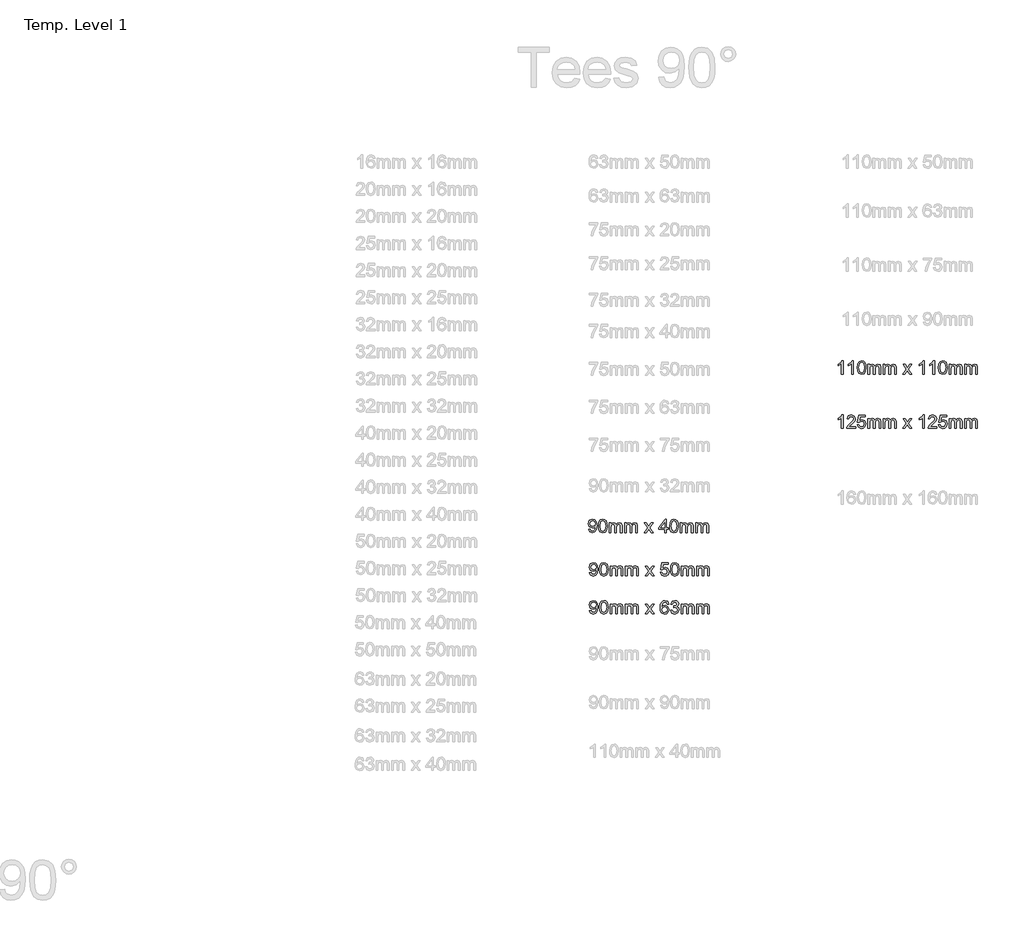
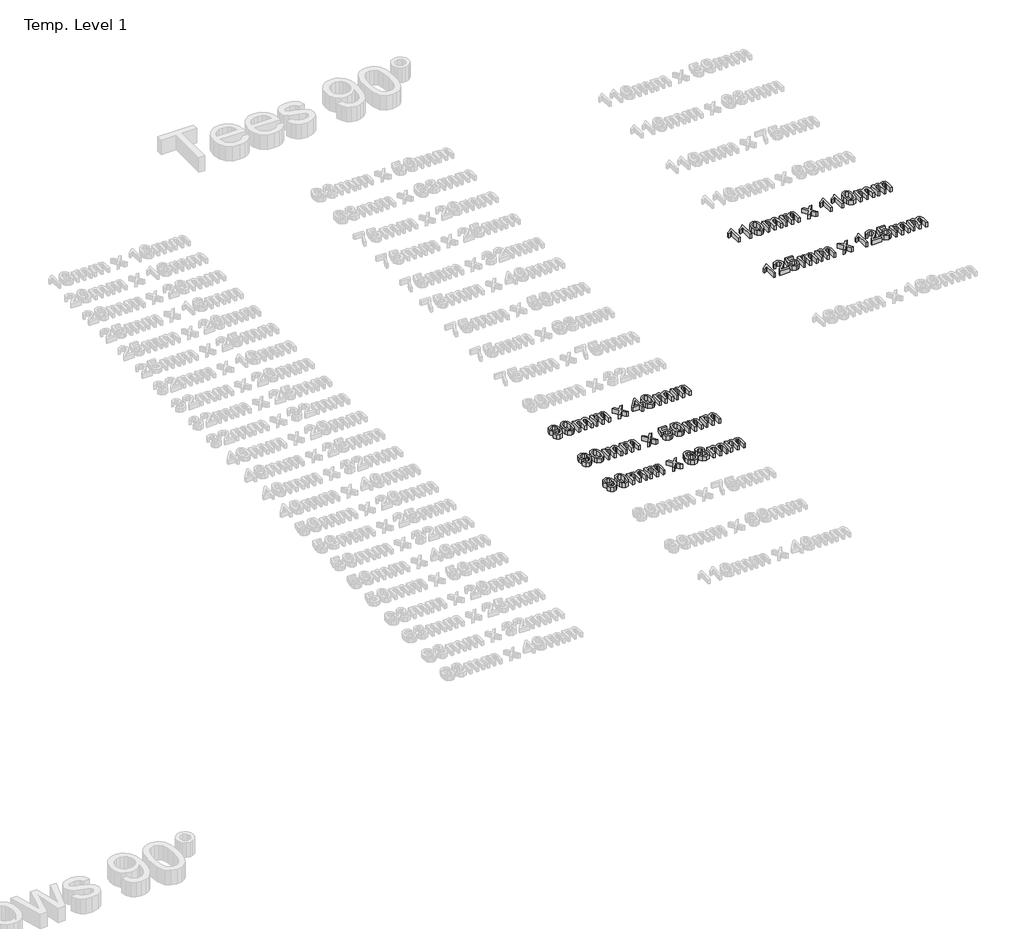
# One storey, part 29 of 62: 5 proxies.
"""IFC4 building model written with IfcOpenShell, lengths in millimetres."""

from ifc_helpers import new_model, si_unit, origin, origin_with_axes, place, context, project, spatial, polyline, outline, extrude, element, save

model = new_model("IFC4")

# Units and contexts
model_context = context("Model", 3, world=origin())
ifc_project = project(units=[si_unit("LENGTHUNIT", "METRE", prefix="MILLI")], contexts=[model_context])

# Site, building, storey
site = spatial("IfcSite", under=ifc_project)
building = spatial("IfcBuilding", under=site)
storey = spatial("IfcBuildingStorey", under=building, Name="Temp. Level 1", Elevation=0.0)

# Proxies
placement = place(None, origin())
element("IfcBuildingElementProxy", 1, Name="50mm Arial", ObjectType="50mm Arial", at=placement, inside=storey, context=model_context, shape_type="SweptSolid", body=[
    extrude(outline(polyline([(27272.9979155, -8702.1878888), (27279.1517617, -8701.4186581), (27281.9161847, -8707.2900523), (27287.1565694, -8709.1109658), (27292.1385405, -8707.9390908), (27295.5159444, -8704.8080811), (27297.5291655, -8699.4595235), (27298.4185886, -8692.3201004), (27293.4606559, -8695.7816388), (27286.7118578, -8697.5725042), (27276.4294059, -8693.1975042), (27272.2286847, -8681.6710619), (27276.6337328, -8669.7720235), (27287.6733963, -8665.2648119), (27296.4414251, -8667.8369273), (27302.475079, -8675.1686581), (27304.5363771, -8688.9426965), (27302.4810886, -8703.88861), (27296.3693097, -8712.3561581), (27286.8681078, -8715.2648119), (27277.4089732, -8711.8333215), (27272.9979155, -8702.1878888)]), holes=[polyline([(27298.3825309, -8681.5268311), (27295.7262809, -8674.1470235), (27288.6709924, -8671.4186581), (27281.2671463, -8674.35736), (27278.3825309, -8681.9715427), (27281.1108963, -8688.7924561), (27288.5027232, -8691.4186581), (27295.600079, -8688.7924561), (27298.3825309, -8681.5268311)])]), origin_with_axes(), (0.0, 0.0, 1.0), 15.0),
    extrude(outline(polyline([(27309.9209924, -8690.2768311), (27311.7298867, -8676.1121677), (27317.1024828, -8667.9451004), (27326.0748386, -8665.2648119), (27333.2623386, -8666.8513504), (27338.2262809, -8671.4246677), (27341.1108963, -8678.7083215), (27342.2286847, -8690.2768311), (27340.4378194, -8704.3813985), (27335.0832521, -8712.5664946), (27326.0748386, -8715.2648119), (27314.8248386, -8710.5773119), (27311.146954, -8702.2509898), (27309.9209924, -8690.2768311)]), holes=[polyline([(27316.0748386, -8690.2648119), (27318.959454, -8705.5472638), (27326.0748386, -8709.1109658), (27333.1902232, -8705.5352446), (27336.0748386, -8690.2648119), (27333.2863771, -8675.1566388), (27326.0027232, -8671.4186581), (27319.0556078, -8674.7119273), (27316.0748386, -8690.2648119)])]), origin_with_axes(), (0.0, 0.0, 1.0), 15.0),
    extrude(outline(polyline([(27349.1517617, -8714.4955811), (27349.1517617, -8678.341735), (27355.3056078, -8678.341735), (27355.3056078, -8684.2912542), (27359.5363771, -8679.4174561), (27365.5580117, -8677.5725042), (27371.7238771, -8679.4535138), (27375.1133001, -8684.7239465), (27379.9149828, -8679.3603648), (27385.9786847, -8677.5725042), (27394.0255597, -8680.5472638), (27396.8440694, -8689.7119273), (27396.8440694, -8714.4955811), (27390.6902232, -8714.4955811), (27390.6902232, -8692.3561581), (27390.1193097, -8687.2179369), (27388.0520021, -8684.6878888), (27384.5363771, -8683.7263504), (27378.4846944, -8686.1902927), (27376.0748386, -8694.0869273), (27376.0748386, -8714.4955811), (27369.9209924, -8714.4955811), (27369.9209924, -8691.6710619), (27368.4967136, -8685.7095235), (27363.8272424, -8683.7263504), (27359.271954, -8685.0484658), (27356.2431078, -8688.9186581), (27355.3056078, -8696.2624081), (27355.3056078, -8714.4955811), (27349.1517617, -8714.4955811)])), origin_with_axes(), (0.0, 0.0, 1.0), 15.0),
    extrude(outline(polyline([(27406.0748386, -8714.4955811), (27406.0748386, -8678.341735), (27412.2286847, -8678.341735), (27412.2286847, -8684.2912542), (27416.459454, -8679.4174561), (27422.4810886, -8677.5725042), (27428.646954, -8679.4535138), (27432.0363771, -8684.7239465), (27436.8380597, -8679.3603648), (27442.9017617, -8677.5725042), (27450.9486367, -8680.5472638), (27453.7671463, -8689.7119273), (27453.7671463, -8714.4955811), (27447.6133001, -8714.4955811), (27447.6133001, -8692.3561581), (27447.0423867, -8687.2179369), (27444.975079, -8684.6878888), (27441.459454, -8683.7263504), (27435.4077713, -8686.1902927), (27432.9979155, -8694.0869273), (27432.9979155, -8714.4955811), (27426.8440694, -8714.4955811), (27426.8440694, -8691.6710619), (27425.4197905, -8685.7095235), (27420.7503194, -8683.7263504), (27416.1950309, -8685.0484658), (27413.1661847, -8688.9186581), (27412.2286847, -8696.2624081), (27412.2286847, -8714.4955811), (27406.0748386, -8714.4955811)])), origin_with_axes(), (0.0, 0.0, 1.0), 15.0),
    extrude(outline(polyline([(27478.3825309, -8714.4955811), (27491.5315694, -8696.3225042), (27479.1517617, -8678.341735), (27486.5556078, -8678.341735), (27492.5291655, -8686.9955811), (27495.3176271, -8691.0821196), (27497.7334924, -8687.7407735), (27504.5363771, -8678.341735), (27511.9402232, -8678.341735), (27498.9354155, -8696.3225042), (27511.459454, -8714.4955811), (27504.0556078, -8714.4955811), (27496.5195501, -8703.5701004), (27495.1373386, -8701.5749081), (27485.7863771, -8714.4955811), (27478.3825309, -8714.4955811)])), origin_with_axes(), (0.0, 0.0, 1.0), 15.0),
    extrude(outline(polyline([(27554.5363771, -8714.4955811), (27554.5363771, -8702.9571196), (27532.2286847, -8702.9571196), (27532.2286847, -8696.8032735), (27556.0748386, -8666.0340427), (27560.6902232, -8666.0340427), (27560.6902232, -8696.8032735), (27566.8440694, -8696.8032735), (27566.8440694, -8702.9571196), (27560.6902232, -8702.9571196), (27560.6902232, -8714.4955811), (27554.5363771, -8714.4955811)]), holes=[polyline([(27554.5363771, -8696.8032735), (27554.5363771, -8677.7888504), (27539.8008001, -8696.8032735), (27554.5363771, -8696.8032735)])]), origin_with_axes(), (0.0, 0.0, 1.0), 15.0),
    extrude(outline(polyline([(27572.2286847, -8690.2768311), (27574.037579, -8676.1121677), (27579.4101751, -8667.9451004), (27588.3825309, -8665.2648119), (27595.5700309, -8666.8513504), (27600.5339732, -8671.4246677), (27603.4185886, -8678.7083215), (27604.5363771, -8690.2768311), (27602.7455117, -8704.3813985), (27597.3909444, -8712.5664946), (27588.3825309, -8715.2648119), (27577.1325309, -8710.5773119), (27573.4546463, -8702.2509898), (27572.2286847, -8690.2768311)]), holes=[polyline([(27578.3825309, -8690.2648119), (27581.2671463, -8705.5472638), (27588.3825309, -8709.1109658), (27595.4979155, -8705.5352446), (27598.3825309, -8690.2648119), (27595.5940694, -8675.1566388), (27588.3104155, -8671.4186581), (27581.3633001, -8674.7119273), (27578.3825309, -8690.2648119)])]), origin_with_axes(), (0.0, 0.0, 1.0), 15.0),
    extrude(outline(polyline([(27611.459454, -8714.4955811), (27611.459454, -8678.341735), (27617.6133001, -8678.341735), (27617.6133001, -8684.2912542), (27621.8440694, -8679.4174561), (27627.865704, -8677.5725042), (27634.0315694, -8679.4535138), (27637.4209924, -8684.7239465), (27642.2226751, -8679.3603648), (27648.2863771, -8677.5725042), (27656.3332521, -8680.5472638), (27659.1517617, -8689.7119273), (27659.1517617, -8714.4955811), (27652.9979155, -8714.4955811), (27652.9979155, -8692.3561581), (27652.4270021, -8687.2179369), (27650.3596944, -8684.6878888), (27646.8440694, -8683.7263504), (27640.7923867, -8686.1902927), (27638.3825309, -8694.0869273), (27638.3825309, -8714.4955811), (27632.2286847, -8714.4955811), (27632.2286847, -8691.6710619), (27630.8044059, -8685.7095235), (27626.1349347, -8683.7263504), (27621.5796463, -8685.0484658), (27618.5508001, -8688.9186581), (27617.6133001, -8696.2624081), (27617.6133001, -8714.4955811), (27611.459454, -8714.4955811)])), origin_with_axes(), (0.0, 0.0, 1.0), 15.0),
    extrude(outline(polyline([(27668.3825309, -8714.4955811), (27668.3825309, -8678.341735), (27674.5363771, -8678.341735), (27674.5363771, -8684.2912542), (27678.7671463, -8679.4174561), (27684.7887809, -8677.5725042), (27690.9546463, -8679.4535138), (27694.3440694, -8684.7239465), (27699.1457521, -8679.3603648), (27705.209454, -8677.5725042), (27713.256329, -8680.5472638), (27716.0748386, -8689.7119273), (27716.0748386, -8714.4955811), (27709.9209924, -8714.4955811), (27709.9209924, -8692.3561581), (27709.350079, -8687.2179369), (27707.2827713, -8684.6878888), (27703.7671463, -8683.7263504), (27697.7154636, -8686.1902927), (27695.3056078, -8694.0869273), (27695.3056078, -8714.4955811), (27689.1517617, -8714.4955811), (27689.1517617, -8691.6710619), (27687.7274828, -8685.7095235), (27683.0580117, -8683.7263504), (27678.5027232, -8685.0484658), (27675.4738771, -8688.9186581), (27674.5363771, -8696.2624081), (27674.5363771, -8714.4955811), (27668.3825309, -8714.4955811)])), origin_with_axes(), (0.0, 0.0, 1.0), 15.0),
])
element("IfcBuildingElementProxy", 2, Name="50mm Arial", ObjectType="50mm Arial", at=placement, inside=storey, context=model_context, shape_type="SweptSolid", body=[
    extrude(outline(polyline([(27276.4878652, -8862.2488061), (27282.6417113, -8861.4795754), (27285.4061344, -8867.3509696), (27290.646519, -8869.1718831), (27295.6284902, -8868.0000081), (27299.005894, -8864.8689984), (27301.0191152, -8859.5204408), (27301.9085383, -8852.3810177), (27296.9506056, -8855.8425561), (27290.2018075, -8857.6334215), (27279.9193556, -8853.2584215), (27275.7186344, -8841.7319792), (27280.1236825, -8829.8329408), (27291.163346, -8825.3257292), (27299.9313748, -8827.8978446), (27305.9650286, -8835.2295754), (27308.0263267, -8849.0036138), (27305.9710383, -8863.9495273), (27299.8592594, -8872.4170754), (27290.3580575, -8875.3257292), (27280.8989229, -8871.8942388), (27276.4878652, -8862.2488061)]), holes=[polyline([(27301.8724806, -8841.5877484), (27299.2162306, -8834.2079408), (27292.1609421, -8831.4795754), (27284.757096, -8834.4182773), (27281.8724806, -8842.03246), (27284.600846, -8848.8533734), (27291.9926729, -8851.4795754), (27299.0900286, -8848.8533734), (27301.8724806, -8841.5877484)])]), origin_with_axes(), (0.0, 0.0, 1.0), 15.0),
    extrude(outline(polyline([(27313.4109421, -8850.3377484), (27315.2198363, -8836.173085), (27320.5924325, -8828.0060177), (27329.5647883, -8825.3257292), (27336.7522883, -8826.9122677), (27341.7162306, -8831.485585), (27344.600846, -8838.7692388), (27345.7186344, -8850.3377484), (27343.927769, -8864.4423158), (27338.5732017, -8872.6274119), (27329.5647883, -8875.3257292), (27318.3147883, -8870.6382292), (27314.6369036, -8862.3119071), (27313.4109421, -8850.3377484)]), holes=[polyline([(27319.5647883, -8850.3257292), (27322.4494036, -8865.6081811), (27329.5647883, -8869.1718831), (27336.6801729, -8865.5961619), (27339.5647883, -8850.3257292), (27336.7763267, -8835.2175561), (27329.4926729, -8831.4795754), (27322.5455575, -8834.7728446), (27319.5647883, -8850.3257292)])]), origin_with_axes(), (0.0, 0.0, 1.0), 15.0),
    extrude(outline(polyline([(27352.6417113, -8874.5564984), (27352.6417113, -8838.4026523), (27358.7955575, -8838.4026523), (27358.7955575, -8844.3521715), (27363.0263267, -8839.4783734), (27369.0479613, -8837.6334215), (27375.2138267, -8839.5144311), (27378.6032498, -8844.7848638), (27383.4049325, -8839.4212821), (27389.4686344, -8837.6334215), (27397.5155094, -8840.6081811), (27400.334019, -8849.7728446), (27400.334019, -8874.5564984), (27394.1801729, -8874.5564984), (27394.1801729, -8852.4170754), (27393.6092594, -8847.2788542), (27391.5419517, -8844.7488061), (27388.0263267, -8843.7872677), (27381.974644, -8846.25121), (27379.5647883, -8854.1478446), (27379.5647883, -8874.5564984), (27373.4109421, -8874.5564984), (27373.4109421, -8851.7319792), (27371.9866633, -8845.7704408), (27367.3171921, -8843.7872677), (27362.7619036, -8845.1093831), (27359.7330575, -8848.9795754), (27358.7955575, -8856.3233254), (27358.7955575, -8874.5564984), (27352.6417113, -8874.5564984)])), origin_with_axes(), (0.0, 0.0, 1.0), 15.0),
    extrude(outline(polyline([(27409.5647883, -8874.5564984), (27409.5647883, -8838.4026523), (27415.7186344, -8838.4026523), (27415.7186344, -8844.3521715), (27419.9494036, -8839.4783734), (27425.9710383, -8837.6334215), (27432.1369036, -8839.5144311), (27435.5263267, -8844.7848638), (27440.3280094, -8839.4212821), (27446.3917113, -8837.6334215), (27454.4385863, -8840.6081811), (27457.257096, -8849.7728446), (27457.257096, -8874.5564984), (27451.1032498, -8874.5564984), (27451.1032498, -8852.4170754), (27450.5323363, -8847.2788542), (27448.4650286, -8844.7488061), (27444.9494036, -8843.7872677), (27438.897721, -8846.25121), (27436.4878652, -8854.1478446), (27436.4878652, -8874.5564984), (27430.334019, -8874.5564984), (27430.334019, -8851.7319792), (27428.9097402, -8845.7704408), (27424.240269, -8843.7872677), (27419.6849806, -8845.1093831), (27416.6561344, -8848.9795754), (27415.7186344, -8856.3233254), (27415.7186344, -8874.5564984), (27409.5647883, -8874.5564984)])), origin_with_axes(), (0.0, 0.0, 1.0), 15.0),
    extrude(outline(polyline([(27481.8724806, -8874.5564984), (27495.021519, -8856.3834215), (27482.6417113, -8838.4026523), (27490.0455575, -8838.4026523), (27496.0191152, -8847.0564984), (27498.8075767, -8851.1430369), (27501.2234421, -8847.8016908), (27508.0263267, -8838.4026523), (27515.4301729, -8838.4026523), (27502.4253652, -8856.3834215), (27514.9494036, -8874.5564984), (27507.5455575, -8874.5564984), (27500.0094998, -8863.6310177), (27498.6272883, -8861.6358254), (27489.2763267, -8874.5564984), (27481.8724806, -8874.5564984)])), origin_with_axes(), (0.0, 0.0, 1.0), 15.0),
    extrude(outline(polyline([(27538.0263267, -8861.4795754), (27544.1801729, -8860.7103446), (27547.2811344, -8867.0504888), (27553.7114229, -8869.1718831), (27561.427769, -8866.2211619), (27564.1801729, -8858.3906331), (27561.6020479, -8851.0829408), (27553.8075767, -8848.4026523), (27548.4049325, -8849.4723638), (27544.9494036, -8852.2488061), (27538.7955575, -8851.4795754), (27544.1801729, -8826.09496), (27568.0263267, -8826.09496), (27568.0263267, -8832.2488061), (27549.1561344, -8832.2488061), (27546.5239229, -8845.8064984), (27555.5263267, -8842.2488061), (27566.0491633, -8846.6598638), (27570.334019, -8858.0060177), (27566.475846, -8869.4242869), (27560.9349806, -8873.8503686), (27553.6873844, -8875.3257292), (27542.8280094, -8871.5336619), (27538.0263267, -8861.4795754)])), origin_with_axes(), (0.0, 0.0, 1.0), 15.0),
    extrude(outline(polyline([(27575.7186344, -8850.3377484), (27577.5275286, -8836.173085), (27582.9001248, -8828.0060177), (27591.8724806, -8825.3257292), (27599.0599806, -8826.9122677), (27604.0239229, -8831.485585), (27606.9085383, -8838.7692388), (27608.0263267, -8850.3377484), (27606.2354613, -8864.4423158), (27600.880894, -8872.6274119), (27591.8724806, -8875.3257292), (27580.6224806, -8870.6382292), (27576.944596, -8862.3119071), (27575.7186344, -8850.3377484)]), holes=[polyline([(27581.8724806, -8850.3257292), (27584.757096, -8865.6081811), (27591.8724806, -8869.1718831), (27598.9878652, -8865.5961619), (27601.8724806, -8850.3257292), (27599.084019, -8835.2175561), (27591.8003652, -8831.4795754), (27584.8532498, -8834.7728446), (27581.8724806, -8850.3257292)])]), origin_with_axes(), (0.0, 0.0, 1.0), 15.0),
    extrude(outline(polyline([(27614.9494036, -8874.5564984), (27614.9494036, -8838.4026523), (27621.1032498, -8838.4026523), (27621.1032498, -8844.3521715), (27625.334019, -8839.4783734), (27631.3556536, -8837.6334215), (27637.521519, -8839.5144311), (27640.9109421, -8844.7848638), (27645.7126248, -8839.4212821), (27651.7763267, -8837.6334215), (27659.8232017, -8840.6081811), (27662.6417113, -8849.7728446), (27662.6417113, -8874.5564984), (27656.4878652, -8874.5564984), (27656.4878652, -8852.4170754), (27655.9169517, -8847.2788542), (27653.849644, -8844.7488061), (27650.334019, -8843.7872677), (27644.2823363, -8846.25121), (27641.8724806, -8854.1478446), (27641.8724806, -8874.5564984), (27635.7186344, -8874.5564984), (27635.7186344, -8851.7319792), (27634.2943556, -8845.7704408), (27629.6248844, -8843.7872677), (27625.069596, -8845.1093831), (27622.0407498, -8848.9795754), (27621.1032498, -8856.3233254), (27621.1032498, -8874.5564984), (27614.9494036, -8874.5564984)])), origin_with_axes(), (0.0, 0.0, 1.0), 15.0),
    extrude(outline(polyline([(27671.8724806, -8874.5564984), (27671.8724806, -8838.4026523), (27678.0263267, -8838.4026523), (27678.0263267, -8844.3521715), (27682.257096, -8839.4783734), (27688.2787306, -8837.6334215), (27694.444596, -8839.5144311), (27697.834019, -8844.7848638), (27702.6357017, -8839.4212821), (27708.6994036, -8837.6334215), (27716.7462786, -8840.6081811), (27719.5647883, -8849.7728446), (27719.5647883, -8874.5564984), (27713.4109421, -8874.5564984), (27713.4109421, -8852.4170754), (27712.8400286, -8847.2788542), (27710.772721, -8844.7488061), (27707.257096, -8843.7872677), (27701.2054133, -8846.25121), (27698.7955575, -8854.1478446), (27698.7955575, -8874.5564984), (27692.6417113, -8874.5564984), (27692.6417113, -8851.7319792), (27691.2174325, -8845.7704408), (27686.5479613, -8843.7872677), (27681.9926729, -8845.1093831), (27678.9638267, -8848.9795754), (27678.0263267, -8856.3233254), (27678.0263267, -8874.5564984), (27671.8724806, -8874.5564984)])), origin_with_axes(), (0.0, 0.0, 1.0), 15.0),
])
element("IfcBuildingElementProxy", 3, Name="50mm Arial", ObjectType="50mm Arial", at=placement, inside=storey, context=model_context, shape_type="SweptSolid", body=[
    extrude(outline(polyline([(27276.4878652, -9002.2488061), (27282.6417113, -9001.4795754), (27285.4061344, -9007.3509696), (27290.646519, -9009.1718831), (27295.6284902, -9008.0000081), (27299.005894, -9004.8689984), (27301.0191152, -8999.5204408), (27301.9085383, -8992.3810177), (27296.9506056, -8995.8425561), (27290.2018075, -8997.6334215), (27279.9193556, -8993.2584215), (27275.7186344, -8981.7319792), (27280.1236825, -8969.8329408), (27291.163346, -8965.3257292), (27299.9313748, -8967.8978446), (27305.9650286, -8975.2295754), (27308.0263267, -8989.0036138), (27305.9710383, -9003.9495273), (27299.8592594, -9012.4170754), (27290.3580575, -9015.3257292), (27280.8989229, -9011.8942388), (27276.4878652, -9002.2488061)]), holes=[polyline([(27301.8724806, -8981.5877484), (27299.2162306, -8974.2079408), (27292.1609421, -8971.4795754), (27284.757096, -8974.4182773), (27281.8724806, -8982.03246), (27284.600846, -8988.8533734), (27291.9926729, -8991.4795754), (27299.0900286, -8988.8533734), (27301.8724806, -8981.5877484)])]), origin_with_axes(), (0.0, 0.0, 1.0), 15.0),
    extrude(outline(polyline([(27313.4109421, -8990.3377484), (27315.2198363, -8976.173085), (27320.5924325, -8968.0060177), (27329.5647883, -8965.3257292), (27336.7522883, -8966.9122677), (27341.7162306, -8971.485585), (27344.600846, -8978.7692388), (27345.7186344, -8990.3377484), (27343.927769, -9004.4423158), (27338.5732017, -9012.6274119), (27329.5647883, -9015.3257292), (27318.3147883, -9010.6382292), (27314.6369036, -9002.3119071), (27313.4109421, -8990.3377484)]), holes=[polyline([(27319.5647883, -8990.3257292), (27322.4494036, -9005.6081811), (27329.5647883, -9009.1718831), (27336.6801729, -9005.5961619), (27339.5647883, -8990.3257292), (27336.7763267, -8975.2175561), (27329.4926729, -8971.4795754), (27322.5455575, -8974.7728446), (27319.5647883, -8990.3257292)])]), origin_with_axes(), (0.0, 0.0, 1.0), 15.0),
    extrude(outline(polyline([(27352.6417113, -9014.5564984), (27352.6417113, -8978.4026523), (27358.7955575, -8978.4026523), (27358.7955575, -8984.3521715), (27363.0263267, -8979.4783734), (27369.0479613, -8977.6334215), (27375.2138267, -8979.5144311), (27378.6032498, -8984.7848638), (27383.4049325, -8979.4212821), (27389.4686344, -8977.6334215), (27397.5155094, -8980.6081811), (27400.334019, -8989.7728446), (27400.334019, -9014.5564984), (27394.1801729, -9014.5564984), (27394.1801729, -8992.4170754), (27393.6092594, -8987.2788542), (27391.5419517, -8984.7488061), (27388.0263267, -8983.7872677), (27381.974644, -8986.25121), (27379.5647883, -8994.1478446), (27379.5647883, -9014.5564984), (27373.4109421, -9014.5564984), (27373.4109421, -8991.7319792), (27371.9866633, -8985.7704408), (27367.3171921, -8983.7872677), (27362.7619036, -8985.1093831), (27359.7330575, -8988.9795754), (27358.7955575, -8996.3233254), (27358.7955575, -9014.5564984), (27352.6417113, -9014.5564984)])), origin_with_axes(), (0.0, 0.0, 1.0), 15.0),
    extrude(outline(polyline([(27409.5647883, -9014.5564984), (27409.5647883, -8978.4026523), (27415.7186344, -8978.4026523), (27415.7186344, -8984.3521715), (27419.9494036, -8979.4783734), (27425.9710383, -8977.6334215), (27432.1369036, -8979.5144311), (27435.5263267, -8984.7848638), (27440.3280094, -8979.4212821), (27446.3917113, -8977.6334215), (27454.4385863, -8980.6081811), (27457.257096, -8989.7728446), (27457.257096, -9014.5564984), (27451.1032498, -9014.5564984), (27451.1032498, -8992.4170754), (27450.5323363, -8987.2788542), (27448.4650286, -8984.7488061), (27444.9494036, -8983.7872677), (27438.897721, -8986.25121), (27436.4878652, -8994.1478446), (27436.4878652, -9014.5564984), (27430.334019, -9014.5564984), (27430.334019, -8991.7319792), (27428.9097402, -8985.7704408), (27424.240269, -8983.7872677), (27419.6849806, -8985.1093831), (27416.6561344, -8988.9795754), (27415.7186344, -8996.3233254), (27415.7186344, -9014.5564984), (27409.5647883, -9014.5564984)])), origin_with_axes(), (0.0, 0.0, 1.0), 15.0),
    extrude(outline(polyline([(27481.8724806, -9014.5564984), (27495.021519, -8996.3834215), (27482.6417113, -8978.4026523), (27490.0455575, -8978.4026523), (27496.0191152, -8987.0564984), (27498.8075767, -8991.1430369), (27501.2234421, -8987.8016908), (27508.0263267, -8978.4026523), (27515.4301729, -8978.4026523), (27502.4253652, -8996.3834215), (27514.9494036, -9014.5564984), (27507.5455575, -9014.5564984), (27500.0094998, -9003.6310177), (27498.6272883, -9001.6358254), (27489.2763267, -9014.5564984), (27481.8724806, -9014.5564984)])), origin_with_axes(), (0.0, 0.0, 1.0), 15.0),
    extrude(outline(polyline([(27569.5647883, -8978.4026523), (27563.4109421, -8979.1718831), (27561.0792113, -8974.0396715), (27554.913346, -8971.4795754), (27549.3604613, -8972.96996), (27545.1597402, -8978.5649119), (27543.4109421, -8989.53246), (27548.8376248, -8984.6226042), (27555.5623844, -8983.0180369), (27566.0191152, -8987.4050561), (27570.334019, -8998.7391908), (27568.302769, -9007.2307773), (27562.7138267, -9013.2403927), (27554.6489229, -9015.3257292), (27542.1068556, -9009.7968831), (27538.4695359, -9002.4771715), (27537.257096, -8991.5757292), (27538.6032498, -8979.3191186), (27542.6417113, -8970.93871), (27548.1555335, -8966.7289744), (27555.2979613, -8965.3257292), (27565.021519, -8968.7992869), (27569.5647883, -8978.4026523)]), holes=[polyline([(27543.4109421, -8998.6430369), (27544.835221, -9003.9735658), (27548.6212786, -9007.8437581), (27554.1681536, -9009.1718831), (27561.4217594, -9006.4194792), (27564.1801729, -8998.9435177), (27561.4578171, -8991.7860658), (27553.9157498, -8989.1718831), (27546.4698363, -8991.7860658), (27543.4109421, -8998.6430369)])]), origin_with_axes(), (0.0, 0.0, 1.0), 15.0),
    extrude(outline(polyline([(27575.7186344, -9001.4795754), (27581.8724806, -9000.7103446), (27585.2679133, -9007.18871), (27591.6200767, -9009.1718831), (27599.0960383, -9006.4435177), (27601.8724806, -8999.68871), (27599.1200767, -8993.3245273), (27592.1248844, -8990.8064984), (27587.8099806, -8991.4795754), (27588.4950767, -8985.3257292), (27596.4638267, -8983.6310177), (27599.5647883, -8978.1983254), (27597.3171921, -8973.3846234), (27591.5239229, -8971.4795754), (27585.6585383, -8973.4026523), (27582.6417113, -8979.1718831), (27576.4878652, -8978.4026523), (27581.5239229, -8968.75121), (27591.3075767, -8965.3257292), (27598.7294517, -8967.0144311), (27603.9217594, -8971.6298158), (27605.7186344, -8977.8377484), (27604.0119036, -8983.5108254), (27598.9638267, -8987.5853446), (27605.6705575, -8991.7920754), (27608.0263267, -8999.7968831), (27603.3147883, -9010.8064984), (27591.4037306, -9015.3257292), (27580.6104613, -9011.4675561), (27575.7186344, -9001.4795754)])), origin_with_axes(), (0.0, 0.0, 1.0), 15.0),
    extrude(outline(polyline([(27614.9494036, -9014.5564984), (27614.9494036, -8978.4026523), (27621.1032498, -8978.4026523), (27621.1032498, -8984.3521715), (27625.334019, -8979.4783734), (27631.3556536, -8977.6334215), (27637.521519, -8979.5144311), (27640.9109421, -8984.7848638), (27645.7126248, -8979.4212821), (27651.7763267, -8977.6334215), (27659.8232017, -8980.6081811), (27662.6417113, -8989.7728446), (27662.6417113, -9014.5564984), (27656.4878652, -9014.5564984), (27656.4878652, -8992.4170754), (27655.9169517, -8987.2788542), (27653.849644, -8984.7488061), (27650.334019, -8983.7872677), (27644.2823363, -8986.25121), (27641.8724806, -8994.1478446), (27641.8724806, -9014.5564984), (27635.7186344, -9014.5564984), (27635.7186344, -8991.7319792), (27634.2943556, -8985.7704408), (27629.6248844, -8983.7872677), (27625.069596, -8985.1093831), (27622.0407498, -8988.9795754), (27621.1032498, -8996.3233254), (27621.1032498, -9014.5564984), (27614.9494036, -9014.5564984)])), origin_with_axes(), (0.0, 0.0, 1.0), 15.0),
    extrude(outline(polyline([(27671.8724806, -9014.5564984), (27671.8724806, -8978.4026523), (27678.0263267, -8978.4026523), (27678.0263267, -8984.3521715), (27682.257096, -8979.4783734), (27688.2787306, -8977.6334215), (27694.444596, -8979.5144311), (27697.834019, -8984.7848638), (27702.6357017, -8979.4212821), (27708.6994036, -8977.6334215), (27716.7462786, -8980.6081811), (27719.5647883, -8989.7728446), (27719.5647883, -9014.5564984), (27713.4109421, -9014.5564984), (27713.4109421, -8992.4170754), (27712.8400286, -8987.2788542), (27710.772721, -8984.7488061), (27707.257096, -8983.7872677), (27701.2054133, -8986.25121), (27698.7955575, -8994.1478446), (27698.7955575, -9014.5564984), (27692.6417113, -9014.5564984), (27692.6417113, -8991.7319792), (27691.2174325, -8985.7704408), (27686.5479613, -8983.7872677), (27681.9926729, -8985.1093831), (27678.9638267, -8988.9795754), (27678.0263267, -8996.3233254), (27678.0263267, -9014.5564984), (27671.8724806, -9014.5564984)])), origin_with_axes(), (0.0, 0.0, 1.0), 15.0),
])
element("IfcBuildingElementProxy", 4, Name="50mm Arial", ObjectType="50mm Arial", at=placement, inside=storey, context=model_context, shape_type="SweptSolid", body=[
    extrude(outline(polyline([(28212.7399369, -8129.5564984), (28206.5860907, -8129.5564984), (28206.5860907, -8091.1911138), (28200.7567638, -8095.3437581), (28194.2783984, -8098.4507292), (28194.2783984, -8092.6334215), (28203.2988311, -8086.87621), (28208.7735907, -8080.3257292), (28212.7399369, -8080.3257292), (28212.7399369, -8129.5564984)])), origin_with_axes(), (0.0, 0.0, 1.0), 15.0),
    extrude(outline(polyline([(28250.4322446, -8129.5564984), (28244.2783984, -8129.5564984), (28244.2783984, -8091.1911138), (28238.4490715, -8095.3437581), (28231.9707061, -8098.4507292), (28231.9707061, -8092.6334215), (28240.9911388, -8086.87621), (28246.4658984, -8080.3257292), (28250.4322446, -8080.3257292), (28250.4322446, -8129.5564984)])), origin_with_axes(), (0.0, 0.0, 1.0), 15.0),
    extrude(outline(polyline([(28265.0476292, -8105.3377484), (28266.8565234, -8091.173085), (28272.2291196, -8083.0060177), (28281.2014753, -8080.3257292), (28288.3889753, -8081.9122677), (28293.3529177, -8086.485585), (28296.237533, -8093.7692388), (28297.3553215, -8105.3377484), (28295.5644561, -8119.4423158), (28290.2098888, -8127.6274119), (28281.2014753, -8130.3257292), (28269.9514753, -8125.6382292), (28266.2735907, -8117.3119071), (28265.0476292, -8105.3377484)]), holes=[polyline([(28271.2014753, -8105.3257292), (28274.0860907, -8120.6081811), (28281.2014753, -8124.1718831), (28288.31686, -8120.5961619), (28291.2014753, -8105.3257292), (28288.4130138, -8090.2175561), (28281.12936, -8086.4795754), (28274.1822446, -8089.7728446), (28271.2014753, -8105.3257292)])]), origin_with_axes(), (0.0, 0.0, 1.0), 15.0),
    extrude(outline(polyline([(28304.2783984, -8129.5564984), (28304.2783984, -8093.4026523), (28310.4322446, -8093.4026523), (28310.4322446, -8099.3521715), (28314.6630138, -8094.4783734), (28320.6846484, -8092.6334215), (28326.8505138, -8094.5144311), (28330.2399369, -8099.7848638), (28335.0416196, -8094.4212821), (28341.1053215, -8092.6334215), (28349.1521965, -8095.6081811), (28351.9707061, -8104.7728446), (28351.9707061, -8129.5564984), (28345.81686, -8129.5564984), (28345.81686, -8107.4170754), (28345.2459465, -8102.2788542), (28343.1786388, -8099.7488061), (28339.6630138, -8098.7872677), (28333.6113311, -8101.25121), (28331.2014753, -8109.1478446), (28331.2014753, -8129.5564984), (28325.0476292, -8129.5564984), (28325.0476292, -8106.7319792), (28323.6233503, -8100.7704408), (28318.9538792, -8098.7872677), (28314.3985907, -8100.1093831), (28311.3697446, -8103.9795754), (28310.4322446, -8111.3233254), (28310.4322446, -8129.5564984), (28304.2783984, -8129.5564984)])), origin_with_axes(), (0.0, 0.0, 1.0), 15.0),
    extrude(outline(polyline([(28361.2014753, -8129.5564984), (28361.2014753, -8093.4026523), (28367.3553215, -8093.4026523), (28367.3553215, -8099.3521715), (28371.5860907, -8094.4783734), (28377.6077253, -8092.6334215), (28383.7735907, -8094.5144311), (28387.1630138, -8099.7848638), (28391.9646965, -8094.4212821), (28398.0283984, -8092.6334215), (28406.0752734, -8095.6081811), (28408.893783, -8104.7728446), (28408.893783, -8129.5564984), (28402.7399369, -8129.5564984), (28402.7399369, -8107.4170754), (28402.1690234, -8102.2788542), (28400.1017157, -8099.7488061), (28396.5860907, -8098.7872677), (28390.534408, -8101.25121), (28388.1245523, -8109.1478446), (28388.1245523, -8129.5564984), (28381.9707061, -8129.5564984), (28381.9707061, -8106.7319792), (28380.5464273, -8100.7704408), (28375.8769561, -8098.7872677), (28371.3216677, -8100.1093831), (28368.2928215, -8103.9795754), (28367.3553215, -8111.3233254), (28367.3553215, -8129.5564984), (28361.2014753, -8129.5564984)])), origin_with_axes(), (0.0, 0.0, 1.0), 15.0),
    extrude(outline(polyline([(28433.5091677, -8129.5564984), (28446.6582061, -8111.3834215), (28434.2783984, -8093.4026523), (28441.6822446, -8093.4026523), (28447.6558023, -8102.0564984), (28450.4442638, -8106.1430369), (28452.8601292, -8102.8016908), (28459.6630138, -8093.4026523), (28467.06686, -8093.4026523), (28454.0620523, -8111.3834215), (28466.5860907, -8129.5564984), (28459.1822446, -8129.5564984), (28451.6461869, -8118.6310177), (28450.2639753, -8116.6358254), (28440.9130138, -8129.5564984), (28433.5091677, -8129.5564984)])), origin_with_axes(), (0.0, 0.0, 1.0), 15.0),
    extrude(outline(polyline([(28512.7399369, -8129.5564984), (28506.5860907, -8129.5564984), (28506.5860907, -8091.1911138), (28500.7567638, -8095.3437581), (28494.2783984, -8098.4507292), (28494.2783984, -8092.6334215), (28503.2988311, -8086.87621), (28508.7735907, -8080.3257292), (28512.7399369, -8080.3257292), (28512.7399369, -8129.5564984)])), origin_with_axes(), (0.0, 0.0, 1.0), 15.0),
    extrude(outline(polyline([(28550.4322446, -8129.5564984), (28544.2783984, -8129.5564984), (28544.2783984, -8091.1911138), (28538.4490715, -8095.3437581), (28531.9707061, -8098.4507292), (28531.9707061, -8092.6334215), (28540.9911388, -8086.87621), (28546.4658984, -8080.3257292), (28550.4322446, -8080.3257292), (28550.4322446, -8129.5564984)])), origin_with_axes(), (0.0, 0.0, 1.0), 15.0),
    extrude(outline(polyline([(28565.0476292, -8105.3377484), (28566.8565234, -8091.173085), (28572.2291196, -8083.0060177), (28581.2014753, -8080.3257292), (28588.3889753, -8081.9122677), (28593.3529177, -8086.485585), (28596.237533, -8093.7692388), (28597.3553215, -8105.3377484), (28595.5644561, -8119.4423158), (28590.2098888, -8127.6274119), (28581.2014753, -8130.3257292), (28569.9514753, -8125.6382292), (28566.2735907, -8117.3119071), (28565.0476292, -8105.3377484)]), holes=[polyline([(28571.2014753, -8105.3257292), (28574.0860907, -8120.6081811), (28581.2014753, -8124.1718831), (28588.31686, -8120.5961619), (28591.2014753, -8105.3257292), (28588.4130138, -8090.2175561), (28581.12936, -8086.4795754), (28574.1822446, -8089.7728446), (28571.2014753, -8105.3257292)])]), origin_with_axes(), (0.0, 0.0, 1.0), 15.0),
    extrude(outline(polyline([(28604.2783984, -8129.5564984), (28604.2783984, -8093.4026523), (28610.4322446, -8093.4026523), (28610.4322446, -8099.3521715), (28614.6630138, -8094.4783734), (28620.6846484, -8092.6334215), (28626.8505138, -8094.5144311), (28630.2399369, -8099.7848638), (28635.0416196, -8094.4212821), (28641.1053215, -8092.6334215), (28649.1521965, -8095.6081811), (28651.9707061, -8104.7728446), (28651.9707061, -8129.5564984), (28645.81686, -8129.5564984), (28645.81686, -8107.4170754), (28645.2459465, -8102.2788542), (28643.1786388, -8099.7488061), (28639.6630138, -8098.7872677), (28633.6113311, -8101.25121), (28631.2014753, -8109.1478446), (28631.2014753, -8129.5564984), (28625.0476292, -8129.5564984), (28625.0476292, -8106.7319792), (28623.6233503, -8100.7704408), (28618.9538792, -8098.7872677), (28614.3985907, -8100.1093831), (28611.3697446, -8103.9795754), (28610.4322446, -8111.3233254), (28610.4322446, -8129.5564984), (28604.2783984, -8129.5564984)])), origin_with_axes(), (0.0, 0.0, 1.0), 15.0),
    extrude(outline(polyline([(28661.2014753, -8129.5564984), (28661.2014753, -8093.4026523), (28667.3553215, -8093.4026523), (28667.3553215, -8099.3521715), (28671.5860907, -8094.4783734), (28677.6077253, -8092.6334215), (28683.7735907, -8094.5144311), (28687.1630138, -8099.7848638), (28691.9646965, -8094.4212821), (28698.0283984, -8092.6334215), (28706.0752734, -8095.6081811), (28708.893783, -8104.7728446), (28708.893783, -8129.5564984), (28702.7399369, -8129.5564984), (28702.7399369, -8107.4170754), (28702.1690234, -8102.2788542), (28700.1017157, -8099.7488061), (28696.5860907, -8098.7872677), (28690.534408, -8101.25121), (28688.1245523, -8109.1478446), (28688.1245523, -8129.5564984), (28681.9707061, -8129.5564984), (28681.9707061, -8106.7319792), (28680.5464273, -8100.7704408), (28675.8769561, -8098.7872677), (28671.3216677, -8100.1093831), (28668.2928215, -8103.9795754), (28667.3553215, -8111.3233254), (28667.3553215, -8129.5564984), (28661.2014753, -8129.5564984)])), origin_with_axes(), (0.0, 0.0, 1.0), 15.0),
])
element("IfcBuildingElementProxy", 5, Name="50mm Arial", ObjectType="50mm Arial", at=placement, inside=storey, context=model_context, shape_type="SweptSolid", body=[
    extrude(outline(polyline([(28212.7399369, -8329.5564984), (28206.5860907, -8329.5564984), (28206.5860907, -8291.1911138), (28200.7567638, -8295.3437581), (28194.2783984, -8298.4507292), (28194.2783984, -8292.6334215), (28203.2988311, -8286.87621), (28208.7735907, -8280.3257292), (28212.7399369, -8280.3257292), (28212.7399369, -8329.5564984)])), origin_with_axes(), (0.0, 0.0, 1.0), 15.0),
    extrude(outline(polyline([(28258.893783, -8323.4026523), (28258.893783, -8329.5564984), (28226.5860907, -8329.5564984), (28227.2471484, -8325.31371), (28230.9851292, -8318.7812581), (28238.6894561, -8311.6478446), (28249.3144561, -8301.3954408), (28251.9707061, -8294.4242869), (28249.4646965, -8288.7812581), (28242.9202253, -8286.4795754), (28236.0993119, -8288.7271715), (28233.5091677, -8294.9411138), (28227.3553215, -8294.1718831), (28232.0728696, -8283.8714023), (28243.0524369, -8280.3257292), (28254.0680619, -8284.2680369), (28258.1245523, -8294.0516908), (28257.0308023, -8299.8870273), (28253.394985, -8305.9206811), (28244.5788792, -8314.3521715), (28237.4995523, -8320.2716427), (28234.72311, -8323.4026523), (28258.893783, -8323.4026523)])), origin_with_axes(), (0.0, 0.0, 1.0), 15.0),
    extrude(outline(polyline([(28265.0476292, -8316.4795754), (28271.2014753, -8315.7103446), (28274.3024369, -8322.0504888), (28280.7327253, -8324.1718831), (28288.4490715, -8321.2211619), (28291.2014753, -8313.3906331), (28288.6233503, -8306.0829408), (28280.8288792, -8303.4026523), (28275.426235, -8304.4723638), (28271.9707061, -8307.2488061), (28265.81686, -8306.4795754), (28271.2014753, -8281.09496), (28295.0476292, -8281.09496), (28295.0476292, -8287.2488061), (28276.1774369, -8287.2488061), (28273.5452253, -8300.8064984), (28282.5476292, -8297.2488061), (28293.0704657, -8301.6598638), (28297.3553215, -8313.0060177), (28293.4971484, -8324.4242869), (28287.956283, -8328.8503686), (28280.7086869, -8330.3257292), (28269.8493119, -8326.5336619), (28265.0476292, -8316.4795754)])), origin_with_axes(), (0.0, 0.0, 1.0), 15.0),
    extrude(outline(polyline([(28304.2783984, -8329.5564984), (28304.2783984, -8293.4026523), (28310.4322446, -8293.4026523), (28310.4322446, -8299.3521715), (28314.6630138, -8294.4783734), (28320.6846484, -8292.6334215), (28326.8505138, -8294.5144311), (28330.2399369, -8299.7848638), (28335.0416196, -8294.4212821), (28341.1053215, -8292.6334215), (28349.1521965, -8295.6081811), (28351.9707061, -8304.7728446), (28351.9707061, -8329.5564984), (28345.81686, -8329.5564984), (28345.81686, -8307.4170754), (28345.2459465, -8302.2788542), (28343.1786388, -8299.7488061), (28339.6630138, -8298.7872677), (28333.6113311, -8301.25121), (28331.2014753, -8309.1478446), (28331.2014753, -8329.5564984), (28325.0476292, -8329.5564984), (28325.0476292, -8306.7319792), (28323.6233503, -8300.7704408), (28318.9538792, -8298.7872677), (28314.3985907, -8300.1093831), (28311.3697446, -8303.9795754), (28310.4322446, -8311.3233254), (28310.4322446, -8329.5564984), (28304.2783984, -8329.5564984)])), origin_with_axes(), (0.0, 0.0, 1.0), 15.0),
    extrude(outline(polyline([(28361.2014753, -8329.5564984), (28361.2014753, -8293.4026523), (28367.3553215, -8293.4026523), (28367.3553215, -8299.3521715), (28371.5860907, -8294.4783734), (28377.6077253, -8292.6334215), (28383.7735907, -8294.5144311), (28387.1630138, -8299.7848638), (28391.9646965, -8294.4212821), (28398.0283984, -8292.6334215), (28406.0752734, -8295.6081811), (28408.893783, -8304.7728446), (28408.893783, -8329.5564984), (28402.7399369, -8329.5564984), (28402.7399369, -8307.4170754), (28402.1690234, -8302.2788542), (28400.1017157, -8299.7488061), (28396.5860907, -8298.7872677), (28390.534408, -8301.25121), (28388.1245523, -8309.1478446), (28388.1245523, -8329.5564984), (28381.9707061, -8329.5564984), (28381.9707061, -8306.7319792), (28380.5464273, -8300.7704408), (28375.8769561, -8298.7872677), (28371.3216677, -8300.1093831), (28368.2928215, -8303.9795754), (28367.3553215, -8311.3233254), (28367.3553215, -8329.5564984), (28361.2014753, -8329.5564984)])), origin_with_axes(), (0.0, 0.0, 1.0), 15.0),
    extrude(outline(polyline([(28433.5091677, -8329.5564984), (28446.6582061, -8311.3834215), (28434.2783984, -8293.4026523), (28441.6822446, -8293.4026523), (28447.6558023, -8302.0564984), (28450.4442638, -8306.1430369), (28452.8601292, -8302.8016908), (28459.6630138, -8293.4026523), (28467.06686, -8293.4026523), (28454.0620523, -8311.3834215), (28466.5860907, -8329.5564984), (28459.1822446, -8329.5564984), (28451.6461869, -8318.6310177), (28450.2639753, -8316.6358254), (28440.9130138, -8329.5564984), (28433.5091677, -8329.5564984)])), origin_with_axes(), (0.0, 0.0, 1.0), 15.0),
    extrude(outline(polyline([(28512.7399369, -8329.5564984), (28506.5860907, -8329.5564984), (28506.5860907, -8291.1911138), (28500.7567638, -8295.3437581), (28494.2783984, -8298.4507292), (28494.2783984, -8292.6334215), (28503.2988311, -8286.87621), (28508.7735907, -8280.3257292), (28512.7399369, -8280.3257292), (28512.7399369, -8329.5564984)])), origin_with_axes(), (0.0, 0.0, 1.0), 15.0),
    extrude(outline(polyline([(28558.893783, -8323.4026523), (28558.893783, -8329.5564984), (28526.5860907, -8329.5564984), (28527.2471484, -8325.31371), (28530.9851292, -8318.7812581), (28538.6894561, -8311.6478446), (28549.3144561, -8301.3954408), (28551.9707061, -8294.4242869), (28549.4646965, -8288.7812581), (28542.9202253, -8286.4795754), (28536.0993119, -8288.7271715), (28533.5091677, -8294.9411138), (28527.3553215, -8294.1718831), (28532.0728696, -8283.8714023), (28543.0524369, -8280.3257292), (28554.0680619, -8284.2680369), (28558.1245523, -8294.0516908), (28557.0308023, -8299.8870273), (28553.394985, -8305.9206811), (28544.5788792, -8314.3521715), (28537.4995523, -8320.2716427), (28534.72311, -8323.4026523), (28558.893783, -8323.4026523)])), origin_with_axes(), (0.0, 0.0, 1.0), 15.0),
    extrude(outline(polyline([(28565.0476292, -8316.4795754), (28571.2014753, -8315.7103446), (28574.3024369, -8322.0504888), (28580.7327253, -8324.1718831), (28588.4490715, -8321.2211619), (28591.2014753, -8313.3906331), (28588.6233503, -8306.0829408), (28580.8288792, -8303.4026523), (28575.426235, -8304.4723638), (28571.9707061, -8307.2488061), (28565.81686, -8306.4795754), (28571.2014753, -8281.09496), (28595.0476292, -8281.09496), (28595.0476292, -8287.2488061), (28576.1774369, -8287.2488061), (28573.5452253, -8300.8064984), (28582.5476292, -8297.2488061), (28593.0704657, -8301.6598638), (28597.3553215, -8313.0060177), (28593.4971484, -8324.4242869), (28587.956283, -8328.8503686), (28580.7086869, -8330.3257292), (28569.8493119, -8326.5336619), (28565.0476292, -8316.4795754)])), origin_with_axes(), (0.0, 0.0, 1.0), 15.0),
    extrude(outline(polyline([(28604.2783984, -8329.5564984), (28604.2783984, -8293.4026523), (28610.4322446, -8293.4026523), (28610.4322446, -8299.3521715), (28614.6630138, -8294.4783734), (28620.6846484, -8292.6334215), (28626.8505138, -8294.5144311), (28630.2399369, -8299.7848638), (28635.0416196, -8294.4212821), (28641.1053215, -8292.6334215), (28649.1521965, -8295.6081811), (28651.9707061, -8304.7728446), (28651.9707061, -8329.5564984), (28645.81686, -8329.5564984), (28645.81686, -8307.4170754), (28645.2459465, -8302.2788542), (28643.1786388, -8299.7488061), (28639.6630138, -8298.7872677), (28633.6113311, -8301.25121), (28631.2014753, -8309.1478446), (28631.2014753, -8329.5564984), (28625.0476292, -8329.5564984), (28625.0476292, -8306.7319792), (28623.6233503, -8300.7704408), (28618.9538792, -8298.7872677), (28614.3985907, -8300.1093831), (28611.3697446, -8303.9795754), (28610.4322446, -8311.3233254), (28610.4322446, -8329.5564984), (28604.2783984, -8329.5564984)])), origin_with_axes(), (0.0, 0.0, 1.0), 15.0),
    extrude(outline(polyline([(28661.2014753, -8329.5564984), (28661.2014753, -8293.4026523), (28667.3553215, -8293.4026523), (28667.3553215, -8299.3521715), (28671.5860907, -8294.4783734), (28677.6077253, -8292.6334215), (28683.7735907, -8294.5144311), (28687.1630138, -8299.7848638), (28691.9646965, -8294.4212821), (28698.0283984, -8292.6334215), (28706.0752734, -8295.6081811), (28708.893783, -8304.7728446), (28708.893783, -8329.5564984), (28702.7399369, -8329.5564984), (28702.7399369, -8307.4170754), (28702.1690234, -8302.2788542), (28700.1017157, -8299.7488061), (28696.5860907, -8298.7872677), (28690.534408, -8301.25121), (28688.1245523, -8309.1478446), (28688.1245523, -8329.5564984), (28681.9707061, -8329.5564984), (28681.9707061, -8306.7319792), (28680.5464273, -8300.7704408), (28675.8769561, -8298.7872677), (28671.3216677, -8300.1093831), (28668.2928215, -8303.9795754), (28667.3553215, -8311.3233254), (28667.3553215, -8329.5564984), (28661.2014753, -8329.5564984)])), origin_with_axes(), (0.0, 0.0, 1.0), 15.0),
])

save(model, "model.ifc")
